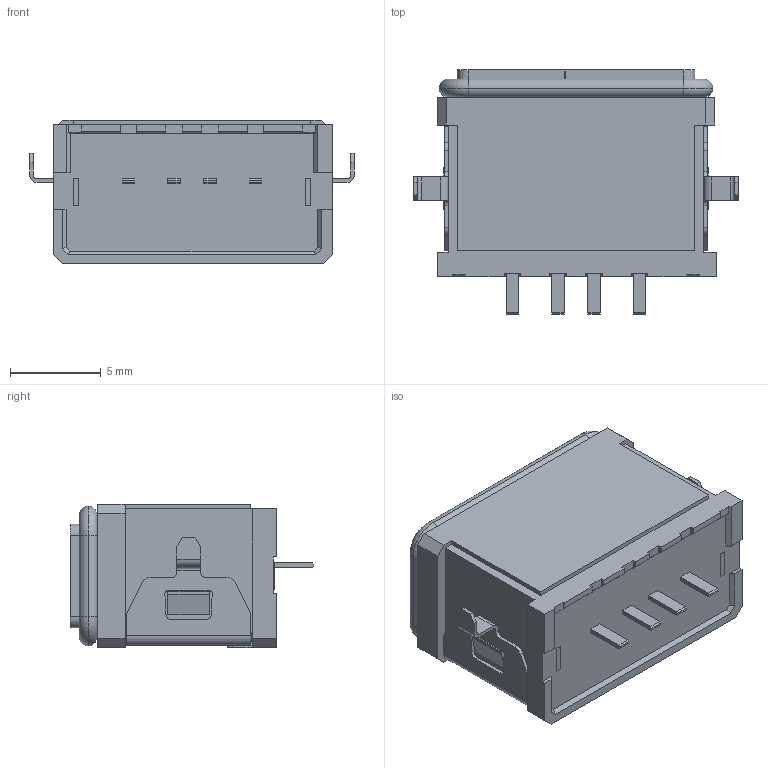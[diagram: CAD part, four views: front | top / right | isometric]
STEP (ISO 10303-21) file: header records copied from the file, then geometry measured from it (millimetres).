
FILE_DESCRIPTION (( 'STEP AP214' ), '1' );
FILE_NAME ('U2019-04P3.23C11.4L.STEP', '2026-05-15T01:43:21', ( '' ), ( '' ), 'SwSTEP 2.0', 'SolidWorks 2024', '' );
FILE_SCHEMA (( 'AUTOMOTIVE_DESIGN' ));
Length unit declared in the file: millimetre
Products named in the file (1): U2019-04P3.23C11.4L
Bounding box: 17.9 x 13.46 x 7.92 mm (x, y, z)
Volume: 753.4 mm3; surface area: 2268.2 mm2
Topology: 2 solids, 2 shells, 1065 faces, 2948 edges, 1888 vertices
Faces by surface type: plane 572, cylinder 332, bspline 97, torus 40, cone 24
Entity records: 38328 total; most frequent: CARTESIAN_POINT 12348, ORIENTED_EDGE 5896, DIRECTION 4734, EDGE_CURVE 2948, LINE 1910, VECTOR 1910, VERTEX_POINT 1888, AXIS2_PLACEMENT_3D 1412
